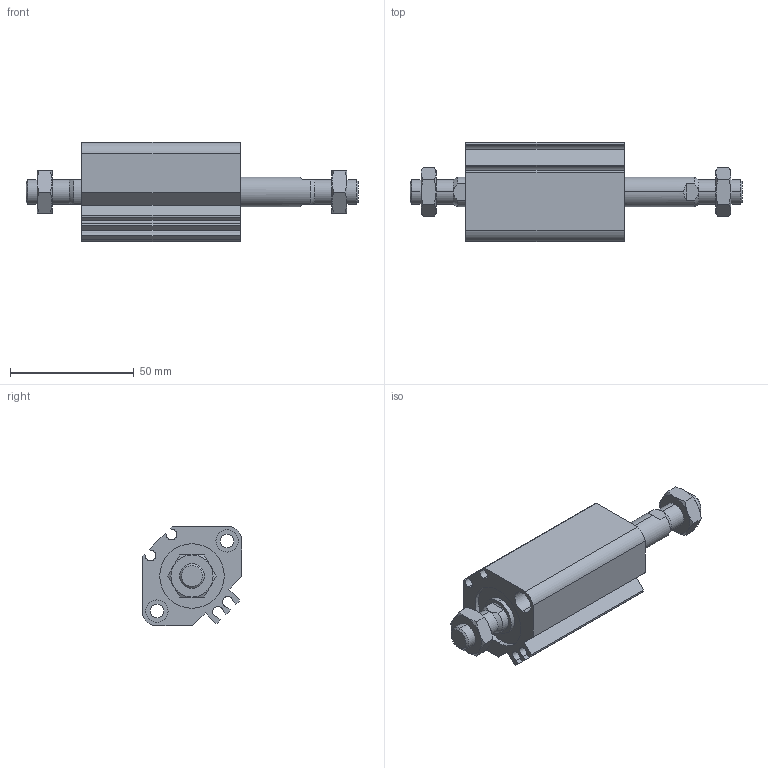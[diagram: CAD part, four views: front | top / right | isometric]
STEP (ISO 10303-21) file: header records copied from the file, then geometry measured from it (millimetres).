
FILE_DESCRIPTION (( 'STEP AP203' ), '1' );
FILE_NAME ('CCMB25-25M-P.STEP', '2020-08-10T11:28:48', ( '' ), ( '' ), 'SwSTEP 2.0', 'SolidWorks 2019', '' );
FILE_SCHEMA (( 'CONFIG_CONTROL_DESIGN' ));
Length unit declared in the file: millimetre
Products named in the file (1): CCMB25-25M-P
Bounding box: 134 x 40 x 40 mm (x, y, z)
Volume: 79471.4 mm3; surface area: 30512 mm2
Topology: 4 solids, 4 shells, 166 faces, 384 edges, 240 vertices
Faces by surface type: plane 66, cylinder 56, cone 44
Entity records: 5403 total; most frequent: CARTESIAN_POINT 1543, DIRECTION 806, ORIENTED_EDGE 768, EDGE_CURVE 384, AXIS2_PLACEMENT_3D 319, VERTEX_POINT 240, EDGE_LOOP 190, VECTOR 168
